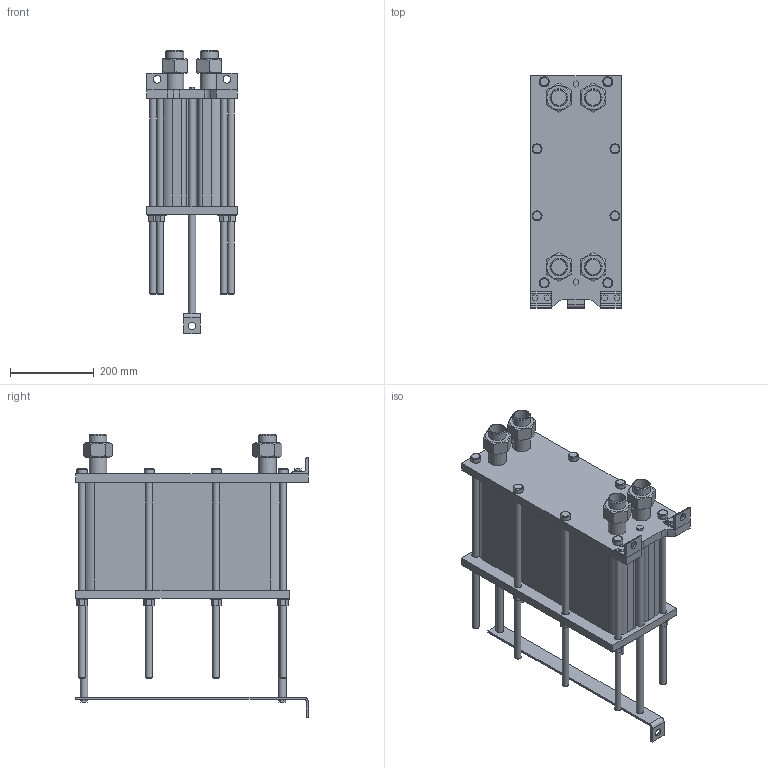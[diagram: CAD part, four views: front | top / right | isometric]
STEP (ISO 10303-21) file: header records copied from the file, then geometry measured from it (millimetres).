
FILE_DESCRIPTION(/* description */ (''),/* implementation_level */ '2;1');
FILE_NAME(/* name */ 'C:\Users\zhuro\Desktop\ENCO\TO\ЭН-004\ЭН-0,5-004-83-1.stp',/* time_stamp */ '2022-06-06T10:50:30+03:00',/* author */ ('zhuro'),/* organization */ (''),/* preprocessor_version */ 'ST-DEVELOPER v18.1',/* originating_system */ 'Autodesk Inventor 2022',/* authorisation */ '');
FILE_SCHEMA (('AUTOMOTIVE_DESIGN { 1 0 10303 214 3 1 1 }'));
Length unit declared in the file: millimetre
Products named in the file (1): ЭН-0,5-004-83-1
Bounding box: 216 x 555 x 675.4 mm (x, y, z)
Volume: 24991367.3 mm3; surface area: 1515893.4 mm2
Topology: 40 solids, 40 shells, 403 faces, 865 edges, 574 vertices
Faces by surface type: plane 272, cylinder 103, cone 28
Full cylindrical faces by diameter (mm): 10 x4, 16 x16, 18 x29, 20 x2, 24 x8, 28 x8, 36.3 x5, 42.3 x9
Entity records: 11137 total; most frequent: CARTESIAN_POINT 1939, DIRECTION 1879, ORIENTED_EDGE 1730, EDGE_CURVE 865, AXIS2_PLACEMENT_3D 658, VERTEX_POINT 574, LINE 563, VECTOR 563
